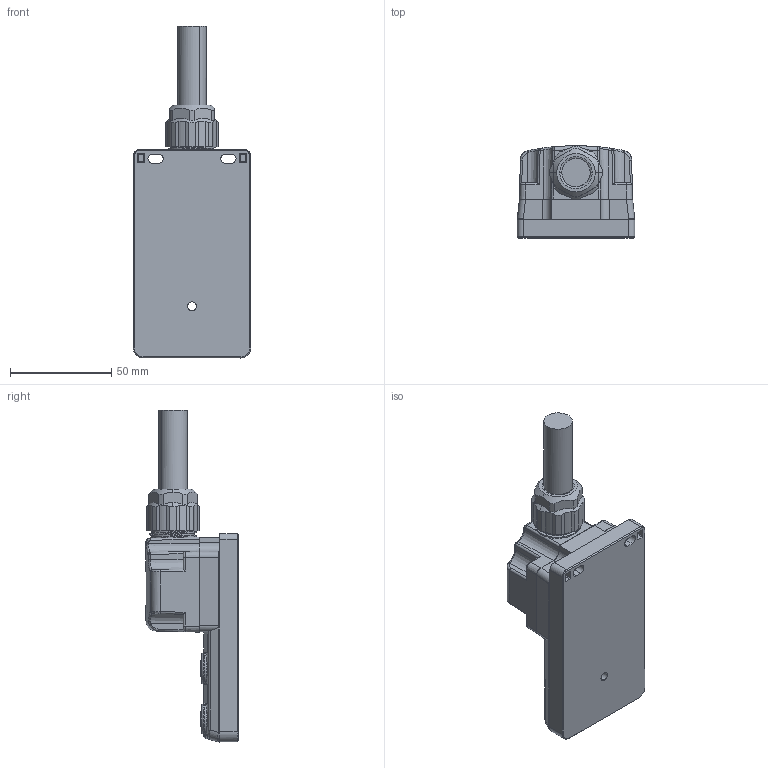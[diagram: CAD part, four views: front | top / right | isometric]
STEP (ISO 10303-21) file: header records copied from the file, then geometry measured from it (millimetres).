
FILE_DESCRIPTION((''),'2;1');
FILE_NAME('ASM0003_ASM','2023-06-27T',('PC'),(''),'PRO/ENGINEER BY PARAMETRIC TECHNOLOGY CORPORATION, 2009220','PRO/ENGINEER BY PARAMETRIC TECHNOLOGY CORPORATION, 2009220','');
FILE_SCHEMA(('CONFIG_CONTROL_DESIGN'));
Length unit declared in the file: millimetre
Products named in the file (58): MANIFOLD_SOLID_BREP_126; MANIFOLD_SOLID_BREP_287; MANIFOLD_SOLID_BREP_451; MANIFOLD_SOLID_BREP_575; MANIFOLD_SOLID_BREP_701; MANIFOLD_SOLID_BREP_825; MANIFOLD_SOLID_BREP_948; MANIFOLD_SOLID_BREP_1073; MANIFOLD_SOLID_BREP_1198; MANIFOLD_SOLID_BREP_1359; MANIFOLD_SOLID_BREP_1482; MANIFOLD_SOLID_BREP_1606; MANIFOLD_SOLID_BREP_1732; MANIFOLD_SOLID_BREP_1854; MANIFOLD_SOLID_BREP_1977; MANIFOLD_SOLID_BREP_2119; MANIFOLD_SOLID_BREP_2242; MANIFOLD_SOLID_BREP_2386; MANIFOLD_SOLID_BREP_2510; MANIFOLD_SOLID_BREP_3834; MANIFOLD_SOLID_BREP_4201; ___TMP__NAME__; 24T0G1_ASM; PRT0001; PRT0002; PRT0003; PRT0004; PRT0005; PRT0006; PRT0007; PRT0008; PRT0009; PRT0010; PRT0011; PRT0012; PRT0013; PRT0014; PRT0015; PRT0016; PRT0017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
Assembly tree (57 placements, depth 5):
  ASM0003_ASM
    24P4SG_ASM_ASM
      ASM0002_ASM_ASM
        24T0G1_ASM
          MANIFOLD_SOLID_BREP_126
          MANIFOLD_SOLID_BREP_287
          MANIFOLD_SOLID_BREP_451
          MANIFOLD_SOLID_BREP_575
          MANIFOLD_SOLID_BREP_701
          MANIFOLD_SOLID_BREP_825
          MANIFOLD_SOLID_BREP_948
          MANIFOLD_SOLID_BREP_1073
          MANIFOLD_SOLID_BREP_1198
          MANIFOLD_SOLID_BREP_1359
          MANIFOLD_SOLID_BREP_1482
          MANIFOLD_SOLID_BREP_1606
          MANIFOLD_SOLID_BREP_1732
          MANIFOLD_SOLID_BREP_1854
          MANIFOLD_SOLID_BREP_1977
          MANIFOLD_SOLID_BREP_2119
          MANIFOLD_SOLID_BREP_2242
          MANIFOLD_SOLID_BREP_2386
          MANIFOLD_SOLID_BREP_2510
          MANIFOLD_SOLID_BREP_3834
          MANIFOLD_SOLID_BREP_4201
          ___TMP__NAME__
        24P40G_ASM_ASM
          PRT0001
          PRT0002
          PRT0003
          PRT0004
          PRT0005
          PRT0006
          PRT0007
          PRT0008
          PRT0009
          PRT0010
          PRT0011
          PRT0012
          PRT0013
          PRT0014
          PRT0015
          PRT0016
          PRT0017
          PRT0018
          PRT0019
          PRT0020
          PRT0021
          PRT0022
          PRT0023
          PRT0024
          PRT0025
          PRT0026
          PRT0027
          PRT0028
          PRT0029
          PRT0030
          PRT0031
Bounding box: 58 x 45.6 x 164.07 mm (x, y, z)
Volume: 84183.6 mm3; surface area: 55176.2 mm2
Topology: 52 solids, 54 shells, 3029 faces, 7862 edges, 5103 vertices
Faces by surface type: plane 1730, cylinder 757, cone 277, torus 182, bspline 71, sphere 12
Entity records: 119699 total; most frequent: CARTESIAN_POINT 44116, ORIENTED_EDGE 15682, DIRECTION 15291, EDGE_CURVE 7850, VECTOR 5105, LINE 5105, VERTEX_POINT 5103, AXIS2_PLACEMENT_3D 5093
